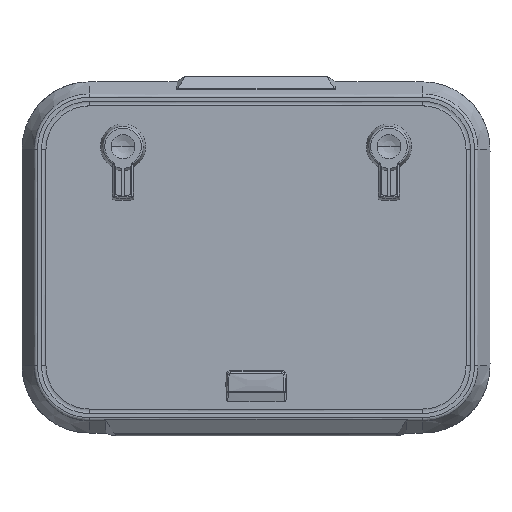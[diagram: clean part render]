
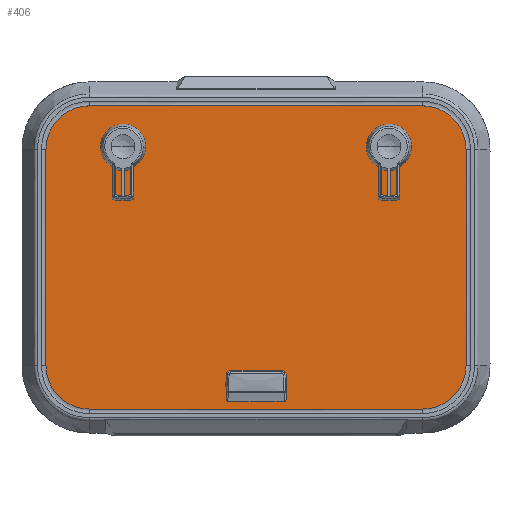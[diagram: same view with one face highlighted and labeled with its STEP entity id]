
A CAD part, front view. The second image highlights one B-rep face of the part: STEP entity #406.
In plain terms, the highlighted planar face has unit normal (0, -1, 0).
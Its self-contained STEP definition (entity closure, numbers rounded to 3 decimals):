
#1=CARTESIAN_POINT('',(85.8,0.,-45.5));
#2=DIRECTION('',(0.,-1.,0.));
#3=DIRECTION('',(1.,0.,0.));
#4=AXIS2_PLACEMENT_3D('',#1,#2,#3);
#6=CARTESIAN_POINT('',(85.8,0.,-45.5));
#7=DIRECTION('',(0.,-1.,0.));
#8=DIRECTION('',(-1.,0.,0.));
#9=AXIS2_PLACEMENT_3D('',#6,#7,#8);
#11=CARTESIAN_POINT('',(381.8,0.,-45.5));
#12=DIRECTION('',(0.,-1.,0.));
#13=DIRECTION('',(1.,0.,0.));
#14=AXIS2_PLACEMENT_3D('',#11,#12,#13);
#16=CARTESIAN_POINT('',(381.8,0.,-45.5));
#17=DIRECTION('',(0.,-1.,0.));
#18=DIRECTION('',(-1.,0.,0.));
#19=AXIS2_PLACEMENT_3D('',#16,#17,#18);
#21=CARTESIAN_POINT('',(100.955,0.,-54.25));
#22=DIRECTION('',(0.,-1.,0.));
#23=DIRECTION('',(1.,0.,0.));
#24=AXIS2_PLACEMENT_3D('',#21,#22,#23);
#26=CARTESIAN_POINT('',(100.955,0.,-54.25));
#27=DIRECTION('',(0.,-1.,0.));
#28=DIRECTION('',(-1.,0.,0.));
#29=AXIS2_PLACEMENT_3D('',#26,#27,#28);
#31=CARTESIAN_POINT('',(366.645,0.,-54.25));
#32=DIRECTION('',(0.,-1.,0.));
#33=DIRECTION('',(1.,0.,0.));
#34=AXIS2_PLACEMENT_3D('',#31,#32,#33);
#36=CARTESIAN_POINT('',(366.645,0.,-54.25));
#37=DIRECTION('',(0.,-1.,0.));
#38=DIRECTION('',(-1.,0.,0.));
#39=AXIS2_PLACEMENT_3D('',#36,#37,#38);
#41=DIRECTION('',(1.,0.,0.));
#42=VECTOR('',#41,371.1);
#43=CARTESIAN_POINT('',(48.25,0.,0.));
#44=LINE('',#43,#42);
#45=CARTESIAN_POINT('',(419.35,0.,-48.25));
#46=DIRECTION('',(0.,1.,0.));
#47=DIRECTION('',(0.,0.,1.));
#48=AXIS2_PLACEMENT_3D('',#45,#46,#47);
#50=DIRECTION('',(0.,0.,-1.));
#51=VECTOR('',#50,241.1);
#52=CARTESIAN_POINT('',(467.6,0.,-48.25));
#53=LINE('',#52,#51);
#54=CARTESIAN_POINT('',(419.35,0.,-289.35));
#55=DIRECTION('',(0.,1.,0.));
#56=DIRECTION('',(1.,0.,0.));
#57=AXIS2_PLACEMENT_3D('',#54,#55,#56);
#59=DIRECTION('',(-1.,0.,0.));
#60=VECTOR('',#59,371.1);
#61=CARTESIAN_POINT('',(419.35,0.,-337.6));
#62=LINE('',#61,#60);
#63=CARTESIAN_POINT('',(48.25,0.,-289.35));
#64=DIRECTION('',(0.,1.,0.));
#65=DIRECTION('',(0.,0.,-1.));
#66=AXIS2_PLACEMENT_3D('',#63,#64,#65);
#68=DIRECTION('',(0.,0.,1.));
#69=VECTOR('',#68,241.1);
#70=CARTESIAN_POINT('',(0.,0.,-289.35));
#71=LINE('',#70,#69);
#72=CARTESIAN_POINT('',(48.25,0.,-48.25));
#73=DIRECTION('',(0.,1.,0.));
#74=DIRECTION('',(-1.,0.,0.));
#75=AXIS2_PLACEMENT_3D('',#72,#73,#74);
#77=CARTESIAN_POINT('',(255.3,0.,-306.6));
#78=DIRECTION('',(0.,-1.,0.));
#79=DIRECTION('',(0.,0.,-1.));
#80=AXIS2_PLACEMENT_3D('',#77,#78,#79);
#82=DIRECTION('',(-1.,0.,0.));
#83=VECTOR('',#82,43.);
#84=CARTESIAN_POINT('',(255.3,0.,-301.1));
#85=LINE('',#84,#83);
#86=CARTESIAN_POINT('',(212.3,0.,-306.6));
#87=DIRECTION('',(0.,-1.,0.));
#88=DIRECTION('',(0.,0.,1.));
#89=AXIS2_PLACEMENT_3D('',#86,#87,#88);
#91=DIRECTION('',(1.,0.,0.));
#92=VECTOR('',#91,43.);
#93=CARTESIAN_POINT('',(212.3,0.,-312.1));
#94=LINE('',#93,#92);
#269=CARTESIAN_POINT('',(48.25,0.,0.));
#270=CARTESIAN_POINT('',(419.35,0.,0.));
#271=VERTEX_POINT('',#269);
#272=VERTEX_POINT('',#270);
#273=CARTESIAN_POINT('',(467.6,0.,-48.25));
#274=VERTEX_POINT('',#273);
#275=CARTESIAN_POINT('',(467.6,0.,-289.35));
#276=VERTEX_POINT('',#275);
#277=CARTESIAN_POINT('',(419.35,0.,-337.6));
#278=VERTEX_POINT('',#277);
#279=CARTESIAN_POINT('',(48.25,0.,-337.6));
#280=VERTEX_POINT('',#279);
#281=CARTESIAN_POINT('',(0.,0.,-289.35));
#282=VERTEX_POINT('',#281);
#283=CARTESIAN_POINT('',(0.,0.,-48.25));
#284=VERTEX_POINT('',#283);
#285=CARTESIAN_POINT('',(255.3,0.,-312.1));
#286=CARTESIAN_POINT('',(255.3,0.,-301.1));
#287=VERTEX_POINT('',#285);
#288=VERTEX_POINT('',#286);
#289=CARTESIAN_POINT('',(212.3,0.,-301.1));
#290=VERTEX_POINT('',#289);
#291=CARTESIAN_POINT('',(212.3,0.,-312.1));
#292=VERTEX_POINT('',#291);
#317=CARTESIAN_POINT('',(93.3,0.,-45.5));
#318=CARTESIAN_POINT('',(78.3,0.,-45.5));
#319=VERTEX_POINT('',#317);
#320=VERTEX_POINT('',#318);
#321=CARTESIAN_POINT('',(389.3,0.,-45.5));
#322=CARTESIAN_POINT('',(374.3,0.,-45.5));
#323=VERTEX_POINT('',#321);
#324=VERTEX_POINT('',#322);
#325=CARTESIAN_POINT('',(104.293,0.,-54.25));
#326=CARTESIAN_POINT('',(97.618,0.,-54.25));
#327=VERTEX_POINT('',#325);
#328=VERTEX_POINT('',#326);
#329=CARTESIAN_POINT('',(369.982,0.,-54.25));
#330=CARTESIAN_POINT('',(363.307,0.,-54.25));
#331=VERTEX_POINT('',#329);
#332=VERTEX_POINT('',#330);
#349=CARTESIAN_POINT('',(0.,0.,0.));
#350=DIRECTION('',(0.,1.,0.));
#351=DIRECTION('',(1.,0.,0.));
#352=AXIS2_PLACEMENT_3D('',#349,#350,#351);
#353=PLANE('',#352);
#355=ORIENTED_EDGE('',*,*,#354,.T.);
#357=ORIENTED_EDGE('',*,*,#356,.T.);
#359=ORIENTED_EDGE('',*,*,#358,.T.);
#361=ORIENTED_EDGE('',*,*,#360,.T.);
#363=ORIENTED_EDGE('',*,*,#362,.T.);
#365=ORIENTED_EDGE('',*,*,#364,.T.);
#367=ORIENTED_EDGE('',*,*,#366,.T.);
#369=ORIENTED_EDGE('',*,*,#368,.T.);
#370=EDGE_LOOP('',(#355,#357,#359,#361,#363,#365,#367,#369));
#371=FACE_OUTER_BOUND('',#370,.F.);
#373=ORIENTED_EDGE('',*,*,#372,.T.);
#375=ORIENTED_EDGE('',*,*,#374,.T.);
#376=EDGE_LOOP('',(#373,#375));
#377=FACE_BOUND('',#376,.F.);
#379=ORIENTED_EDGE('',*,*,#378,.T.);
#381=ORIENTED_EDGE('',*,*,#380,.T.);
#382=EDGE_LOOP('',(#379,#381));
#383=FACE_BOUND('',#382,.F.);
#385=ORIENTED_EDGE('',*,*,#384,.T.);
#387=ORIENTED_EDGE('',*,*,#386,.T.);
#388=EDGE_LOOP('',(#385,#387));
#389=FACE_BOUND('',#388,.F.);
#391=ORIENTED_EDGE('',*,*,#390,.T.);
#393=ORIENTED_EDGE('',*,*,#392,.T.);
#394=EDGE_LOOP('',(#391,#393));
#395=FACE_BOUND('',#394,.F.);
#397=ORIENTED_EDGE('',*,*,#396,.T.);
#399=ORIENTED_EDGE('',*,*,#398,.T.);
#401=ORIENTED_EDGE('',*,*,#400,.T.);
#403=ORIENTED_EDGE('',*,*,#402,.T.);
#404=EDGE_LOOP('',(#397,#399,#401,#403));
#405=FACE_BOUND('',#404,.F.);
#406=ADVANCED_FACE('',(#371,#377,#383,#389,#395,#405),#353,.F.);
#5=CIRCLE('',#4,7.5);
#10=CIRCLE('',#9,7.5);
#15=CIRCLE('',#14,7.5);
#20=CIRCLE('',#19,7.5);
#25=CIRCLE('',#24,3.338);
#30=CIRCLE('',#29,3.338);
#35=CIRCLE('',#34,3.338);
#40=CIRCLE('',#39,3.338);
#49=CIRCLE('',#48,48.25);
#58=CIRCLE('',#57,48.25);
#67=CIRCLE('',#66,48.25);
#76=CIRCLE('',#75,48.25);
#81=CIRCLE('',#80,5.5);
#90=CIRCLE('',#89,5.5);
#354=EDGE_CURVE('',#271,#272,#44,.T.);
#356=EDGE_CURVE('',#272,#274,#49,.T.);
#358=EDGE_CURVE('',#274,#276,#53,.T.);
#360=EDGE_CURVE('',#276,#278,#58,.T.);
#362=EDGE_CURVE('',#278,#280,#62,.T.);
#364=EDGE_CURVE('',#280,#282,#67,.T.);
#366=EDGE_CURVE('',#282,#284,#71,.T.);
#368=EDGE_CURVE('',#284,#271,#76,.T.);
#372=EDGE_CURVE('',#319,#320,#5,.T.);
#374=EDGE_CURVE('',#320,#319,#10,.T.);
#378=EDGE_CURVE('',#323,#324,#15,.T.);
#380=EDGE_CURVE('',#324,#323,#20,.T.);
#384=EDGE_CURVE('',#327,#328,#25,.T.);
#386=EDGE_CURVE('',#328,#327,#30,.T.);
#390=EDGE_CURVE('',#331,#332,#35,.T.);
#392=EDGE_CURVE('',#332,#331,#40,.T.);
#396=EDGE_CURVE('',#287,#288,#81,.T.);
#398=EDGE_CURVE('',#288,#290,#85,.T.);
#400=EDGE_CURVE('',#290,#292,#90,.T.);
#402=EDGE_CURVE('',#292,#287,#94,.T.);
